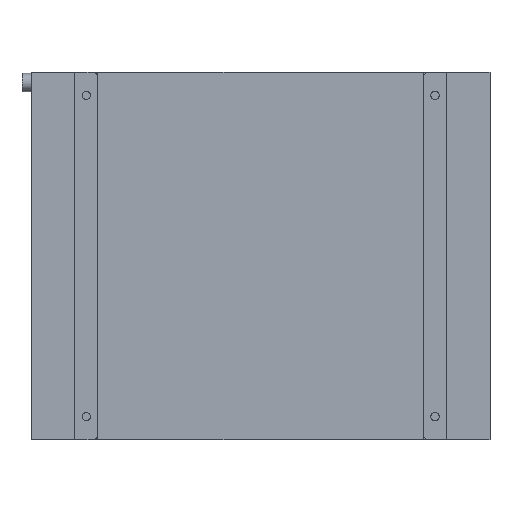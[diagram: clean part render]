
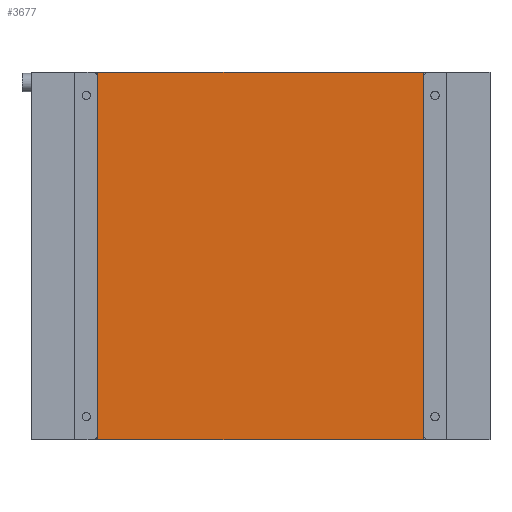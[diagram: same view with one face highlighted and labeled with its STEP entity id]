
A CAD part, front view. The second image highlights one B-rep face of the part: STEP entity #3677.
In plain terms, the highlighted planar face has unit normal (0, -1, 0).
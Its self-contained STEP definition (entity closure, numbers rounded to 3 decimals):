
#131 = DIRECTION ( 'NONE',  ( 1., 0., 0. ) ) ;
#167 = DIRECTION ( 'NONE',  ( 0., 0., -1. ) ) ;
#168 = LINE ( 'NONE', #260, #2547 ) ;
#260 = CARTESIAN_POINT ( 'NONE',  ( 355., 0., 400. ) ) ;
#407 = LINE ( 'NONE', #419, #3463 ) ;
#419 = CARTESIAN_POINT ( 'NONE',  ( -500., 0., 400. ) ) ;
#561 = VERTEX_POINT ( 'NONE', #2391 ) ;
#563 = DIRECTION ( 'NONE',  ( -1., 0., 0. ) ) ;
#593 = CARTESIAN_POINT ( 'NONE',  ( -500., 0., -400. ) ) ;
#652 = EDGE_CURVE ( 'NONE', #3161, #3295, #407, .T. ) ;
#657 = LINE ( 'NONE', #593, #3027 ) ;
#785 = LINE ( 'NONE', #2256, #1383 ) ;
#969 = EDGE_CURVE ( 'NONE', #3295, #561, #168, .T. ) ;
#1107 = PLANE ( 'NONE',  #3549 ) ;
#1253 = ORIENTED_EDGE ( 'NONE', *, *, #652, .F. ) ;
#1383 = VECTOR ( 'NONE', #3720, 1000. ) ;
#1485 = ORIENTED_EDGE ( 'NONE', *, *, #3624, .T. ) ;
#1529 = ORIENTED_EDGE ( 'NONE', *, *, #1646, .F. ) ;
#1646 = EDGE_CURVE ( 'NONE', #561, #3428, #657, .T. ) ;
#1701 = CARTESIAN_POINT ( 'NONE',  ( 0., 0., 0. ) ) ;
#1901 = FACE_OUTER_BOUND ( 'NONE', #3394, .T. ) ;
#2002 = DIRECTION ( 'NONE',  ( 0., 0., -1. ) ) ;
#2256 = CARTESIAN_POINT ( 'NONE',  ( -355., 0., 400. ) ) ;
#2391 = CARTESIAN_POINT ( 'NONE',  ( 355., 0., -400. ) ) ;
#2393 = CARTESIAN_POINT ( 'NONE',  ( 355., 0., 400. ) ) ;
#2547 = VECTOR ( 'NONE', #167, 1000. ) ;
#2663 = CARTESIAN_POINT ( 'NONE',  ( -355., 0., 400. ) ) ;
#3027 = VECTOR ( 'NONE', #563, 1000. ) ;
#3161 = VERTEX_POINT ( 'NONE', #2663 ) ;
#3295 = VERTEX_POINT ( 'NONE', #2393 ) ;
#3394 = EDGE_LOOP ( 'NONE', ( #1529, #3444, #1253, #1485 ) ) ;
#3428 = VERTEX_POINT ( 'NONE', #3627 ) ;
#3444 = ORIENTED_EDGE ( 'NONE', *, *, #969, .F. ) ;
#3463 = VECTOR ( 'NONE', #131, 1000. ) ;
#3549 = AXIS2_PLACEMENT_3D ( 'NONE', #1701, #3755, #2002 ) ;
#3624 = EDGE_CURVE ( 'NONE', #3161, #3428, #785, .T. ) ;
#3627 = CARTESIAN_POINT ( 'NONE',  ( -355., 0., -400. ) ) ;
#3677 = ADVANCED_FACE ( 'NONE', ( #1901 ), #1107, .T. ) ;
#3720 = DIRECTION ( 'NONE',  ( 0., 0., -1. ) ) ;
#3755 = DIRECTION ( 'NONE',  ( 0., -1., 0. ) ) ;
